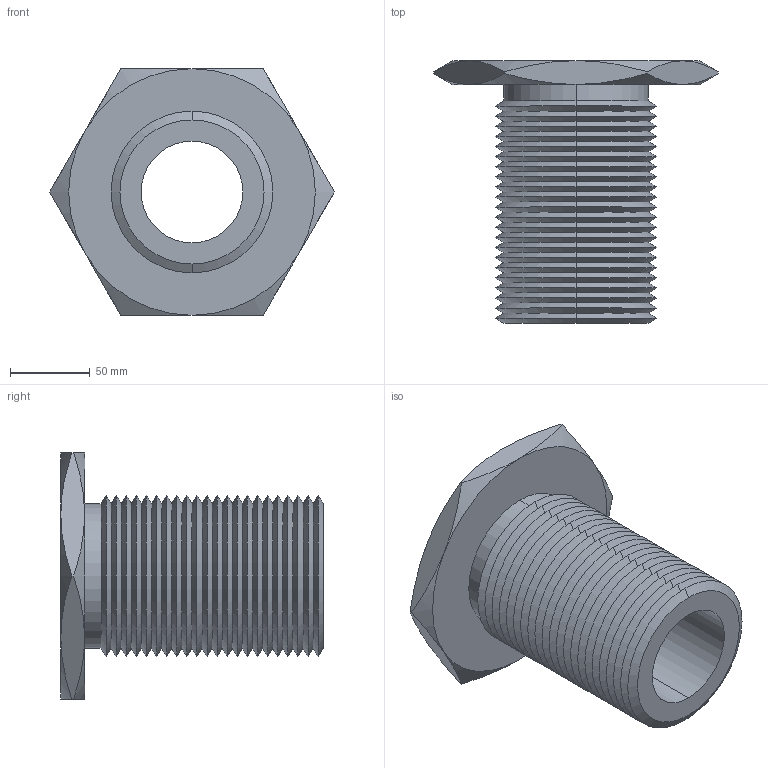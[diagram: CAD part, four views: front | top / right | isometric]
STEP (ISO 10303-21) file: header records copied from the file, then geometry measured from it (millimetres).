
FILE_DESCRIPTION (( 'STEP AP203' ), '1' );
FILE_NAME ('63302.W5400_M64x6.step', '2013-12-08T12:01:56', ( 'User' ), ( '' ), 'SwSTEP 2.0', 'SolidWorks 2009', '' );
FILE_SCHEMA (( 'CONFIG_CONTROL_DESIGN' ));
Length unit declared in the file: millimetre
Products named in the file (1): 63302.W5400_M64x6
Bounding box: 178.98 x 165 x 155 mm (x, y, z)
Volume: 850175.9 mm3; surface area: 161082.8 mm2
Topology: 1 solids, 1 shells, 115 faces, 234 edges, 122 vertices
Faces by surface type: cone 102, plane 9, cylinder 4
Entity records: 3179 total; most frequent: CARTESIAN_POINT 696, DIRECTION 552, ORIENTED_EDGE 468, EDGE_CURVE 234, AXIS2_PLACEMENT_3D 226, VERTEX_POINT 122, EDGE_LOOP 118, ADVANCED_FACE 115
